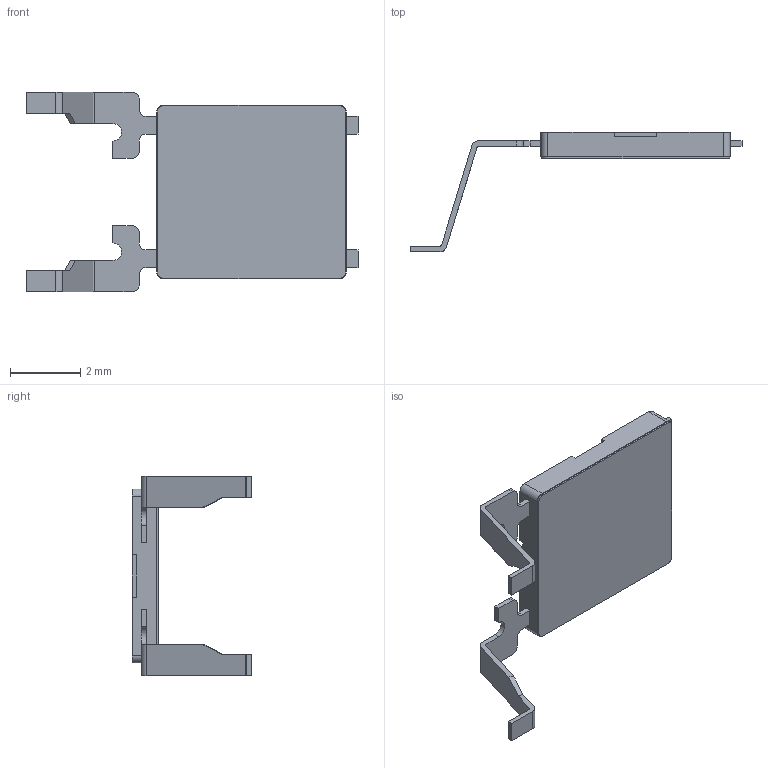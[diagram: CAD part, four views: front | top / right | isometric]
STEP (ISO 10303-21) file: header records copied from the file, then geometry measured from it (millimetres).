
FILE_DESCRIPTION((''),'2;1');
FILE_NAME('JQL5054C-A0070-05EG-1-105_ASM','2026-07-03T17:03:03',('Admin'),(''),'CREO PARAMETRIC BY PTC INC, 2019224','CREO PARAMETRIC BY PTC INC, 2019224','');
FILE_SCHEMA(('AUTOMOTIVE_DESIGN { 1 0 10303 214 1 1 1 1 }'));
Length unit declared in the file: millimetre
Products named in the file (3): JQL5054C-A0070-05EG-1-105_01; JQL5054C-A0070-05EG-1-105_02; JQL5054C-A0070-05EG-1-105_ASM
Assembly tree (2 placements, depth 2):
  JQL5054C-A0070-05EG-1-105_ASM
    JQL5054C-A0070-05EG-1-105_01
    JQL5054C-A0070-05EG-1-105_02
Bounding box: 9.45 x 3.4 x 5.68 mm (x, y, z)
Volume: 17.7 mm3; surface area: 157.3 mm2
Topology: 2 solids, 2 shells, 136 faces, 374 edges, 253 vertices
Faces by surface type: plane 98, cylinder 36, sphere 2
Entity records: 6459 total; most frequent: CARTESIAN_POINT 769, DIRECTION 744, ORIENTED_EDGE 736, PRESENTATION_STYLE_ASSIGNMENT 447, STYLED_ITEM 377, CURVE_STYLE 375, EDGE_CURVE 368, VECTOR 290
